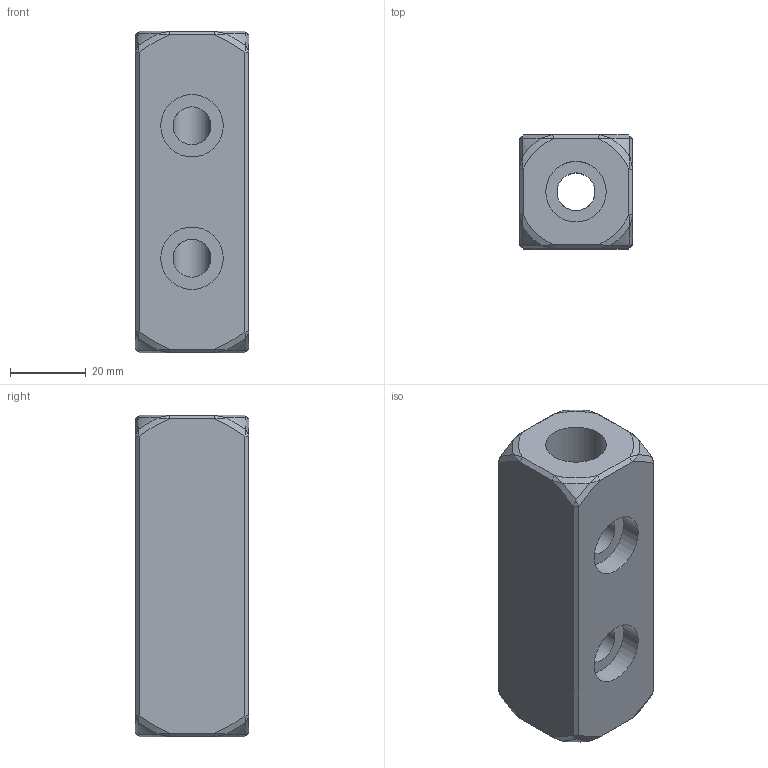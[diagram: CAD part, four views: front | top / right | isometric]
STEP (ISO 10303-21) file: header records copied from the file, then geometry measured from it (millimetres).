
FILE_DESCRIPTION(/* description */ (''),/* implementation_level */ '2;1');
FILE_NAME(/* name */ 'CAO000172115_AA-CLARINETTE_1.stp',/* time_stamp */ '2026-06-05T11:25:45+02:00',/* author */ (''),/* organization */ (''),/* preprocessor_version */ 'ST-DEVELOPER v20',/* originating_system */ 'SIEMENS PLM Software NX2406.7001',/* authorisation */ '');
FILE_SCHEMA (('AUTOMOTIVE_DESIGN { 1 0 10303 214 3 1 1 1 }'));
Length unit declared in the file: millimetre
Products named in the file (1): CAO000172115_AA-CLARINETTE
Bounding box: 30 x 30 x 85 mm (x, y, z)
Volume: 62675.2 mm3; surface area: 15104.7 mm2
Topology: 1 solids, 1 shells, 85 faces, 172 edges, 91 vertices
Faces by surface type: plane 46, cone 16, bspline 16, cylinder 7
Full cylindrical faces by diameter (mm): 10 x3, 16 x1, 16.5 x3
Entity records: 2974 total; most frequent: CARTESIAN_POINT 846, ORIENTED_EDGE 320, DIRECTION 252, EDGE_CURVE 160, EDGE_LOOP 102, AXIS2_PLACEMENT_3D 102, VERTEX_POINT 88, PRESENTATION_STYLE_ASSIGNMENT 86
